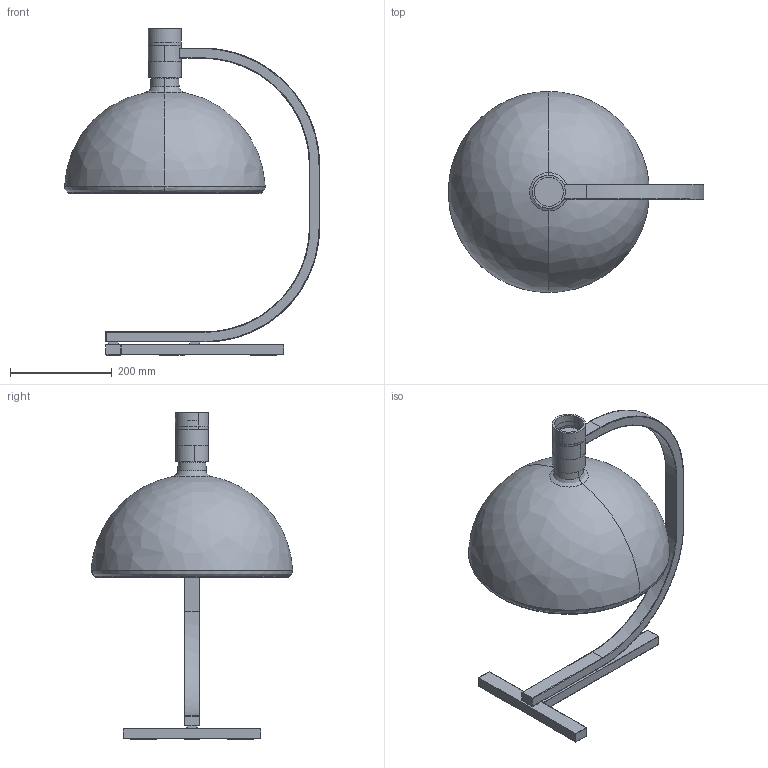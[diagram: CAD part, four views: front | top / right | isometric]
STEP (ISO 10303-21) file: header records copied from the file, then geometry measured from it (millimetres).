
FILE_DESCRIPTION(/* description */ (''),/* implementation_level */ '2;1');
FILE_NAME(/* name */ '3D_AS1~1',/* time_stamp */ '2018-02-28T20:18:18+01:00',/* author */ (''),/* organization */ (''),/* preprocessor_version */ 'ST-DEVELOPER v15',/* originating_system */ '',/* authorisation */ '');
FILE_SCHEMA (('AUTOMOTIVE_DESIGN'));
Length unit declared in the file: millimetre
Products named in the file (3): Document; _U3-1^3D_AS1C; Group1^3D_AS1C
Assembly tree (2 placements, depth 2):
  Document
    _U3-1^3D_AS1C
    Group1^3D_AS1C
Bounding box: 500.93 x 394.93 x 641 mm (x, y, z)
Volume: 1211967.6 mm3; surface area: 497856.4 mm2
Topology: 1 solids, 3 shells, 225 faces, 529 edges, 306 vertices
Faces by surface type: bspline 159, plane 66
Entity records: 12945 total; most frequent: CARTESIAN_POINT 9811, ORIENTED_EDGE 1018, EDGE_CURVE 511, VERTEX_POINT 306, B_SPLINE_CURVE_WITH_KNOTS 274, EDGE_LOOP 243, ADVANCED_FACE 225, FACE_OUTER_BOUND 225
